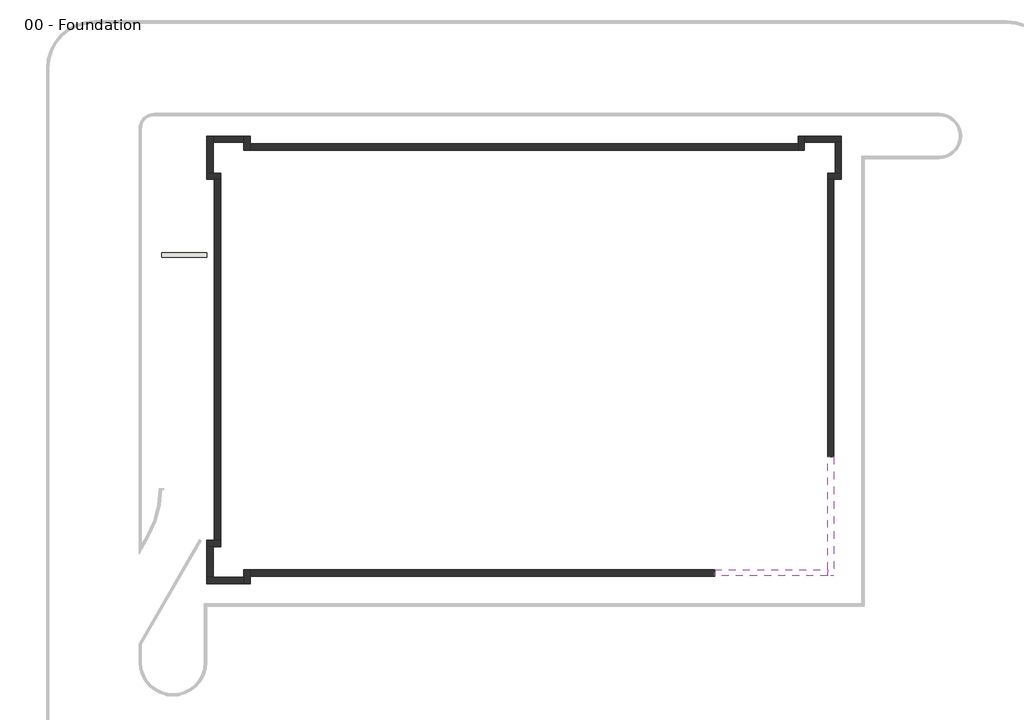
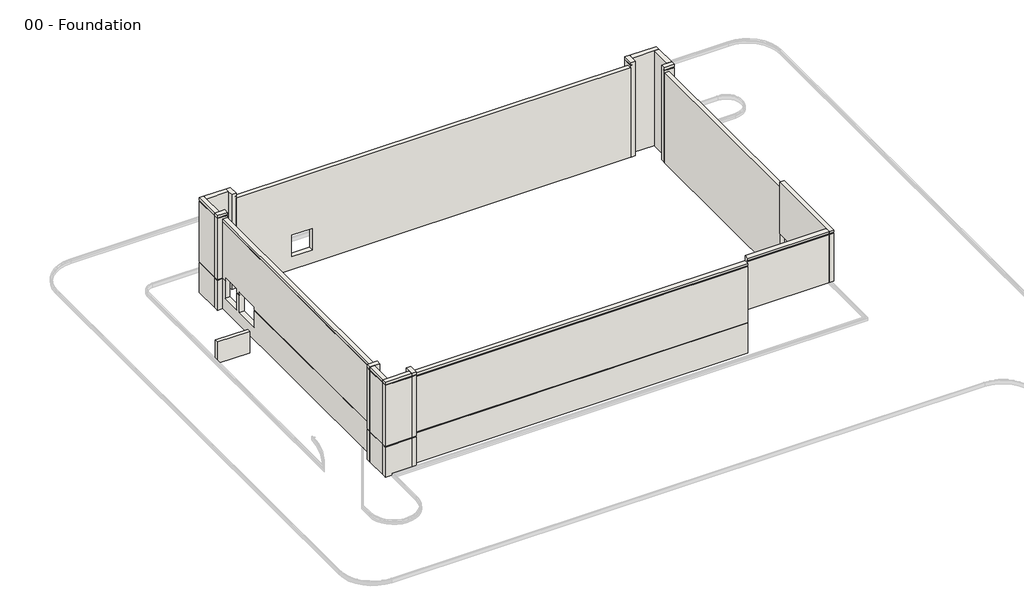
# One storey, part 1 of 2: 19 walls.
"""IFC4 building model written with IfcOpenShell, lengths in millimetres."""

from ifc_helpers import new_model, si_unit, frame, origin, place, context, project, spatial, polyline, outline, extrude, faceted_brep, element, save

model = new_model("IFC4")

# Units and contexts
model_context = context("Model", 3, world=origin())
ifc_project = project(units=[si_unit("LENGTHUNIT", "METRE", prefix="MILLI")], contexts=[model_context])

# Site, building, storey
site = spatial("IfcSite", under=ifc_project)
building = spatial("IfcBuilding", under=site)
storey = spatial("IfcBuildingStorey", under=building, Name="00 - Foundation", Elevation=-1250.0)

# Walls
placement = place(None, origin())
element("IfcWall", 1, ObjectType="Exterior - Render on Brick on Block @ Entry", at=placement, inside=storey, context=model_context, shape_type="Brep", body=[
    faceted_brep([(18351.5272279, -6481.9313057, 3000.0), (18351.5272279, -13977.9313057, 3000.0), (18351.5272279, -14406.9313057, 3000.0), (18351.5272279, -14406.9313057, 7700.0), (18351.5272279, -14331.9313057, 7700.0), (18351.5272279, -14331.9313057, 7775.0), (18351.5272279, -14406.9313057, 7775.0), (18351.5272279, -14406.9313057, 8000.0), (18351.5272279, -13977.9313057, 8000.0), (18351.5272279, -6481.9313057, 8000.0), (18351.5272279, -6481.9313057, 7500.0), (18780.5272279, -14406.9313057, 3000.0), (18780.5272279, -6481.9313057, 3000.0), (18780.5272279, -6481.9313057, 7200.0), (18780.5272279, -6481.9313057, 7275.0), (18780.5272279, -6481.9313057, 7500.0), (18780.5272279, -6481.9313057, 7700.0), (18780.5272279, -14406.9313057, 7700.0), (18780.5272279, -6481.9313057, 8000.0), (18780.5272279, -14406.9313057, 8000.0), (18780.5272279, -14406.9313057, 7775.0), (18780.5272279, -6481.9313057, 7775.0), (18705.5272279, -6481.9313057, 7775.0), (18705.5272279, -6481.9313057, 7700.0), (18705.5272279, -14331.9313057, 7775.0), (18705.5272279, -14331.9313057, 7700.0)], [[[0, 1, 2, 3, 4, 5, 6, 7, 8, 9, 10]], [[11, 12, 13, 14, 15, 16, 17]], [[18, 19, 20, 21]], [[2, 1, 0, 12, 11]], [[9, 8, 7, 19, 18]], [[0, 10, 9, 18, 21, 22, 23, 16, 15, 14, 13, 12]], [[24, 22, 21, 20, 6, 5]], [[23, 25, 4, 3, 17, 16]], [[22, 24, 25, 23]], [[2, 11, 17, 3]], [[19, 7, 6, 20]], [[25, 24, 5, 4]]]),
])
element("IfcWall", 2, ObjectType="Exterior - Render on Brick on Block @ Entry", at=placement, inside=storey, context=model_context, shape_type="Brep", body=[
    faceted_brep([(18351.5272279, -13977.9313057, 3000.0), (10855.5272279, -13977.9313057, 3000.0), (10855.5272279, -13977.9313057, 7500.0), (10855.5272279, -13977.9313057, 8000.0), (18351.5272279, -13977.9313057, 8000.0), (10855.5272279, -14406.9313057, 3000.0), (18351.5272279, -14406.9313057, 3000.0), (18351.5272279, -14406.9313057, 7700.0), (10855.5272279, -14406.9313057, 7700.0), (10855.5272279, -14406.9313057, 7500.0), (10855.5272279, -14406.9313057, 7275.0), (10855.5272279, -14406.9313057, 7200.0), (18351.5272279, -14406.9313057, 8000.0), (10855.5272279, -14406.9313057, 8000.0), (10855.5272279, -14406.9313057, 7775.0), (18351.5272279, -14406.9313057, 7775.0), (10855.5272279, -14331.9313057, 7700.0), (10855.5272279, -14331.9313057, 7775.0), (18351.5272279, -14331.9313057, 7700.0), (18351.5272279, -14331.9313057, 7775.0)], [[[0, 1, 2, 3, 4]], [[5, 6, 7, 8, 9, 10, 11]], [[12, 13, 14, 15]], [[1, 0, 6, 5]], [[3, 2, 1, 5, 11, 10, 9, 8, 16, 17, 14, 13]], [[4, 3, 13, 12]], [[16, 18, 19, 17]], [[0, 4, 12, 15, 19, 18, 7, 6]], [[17, 19, 15, 14]], [[18, 16, 8, 7]]]),
])
element("IfcWall", 3, ObjectType="Exterior - Render on Brick on Block", at=placement, inside=storey, context=model_context, shape_type="Brep", body=[
    faceted_brep([(10855.5272279, -13977.9313057, -1250.0), (-20031.4727721, -13977.9313057, -1250.0), (-20031.4727721, -13977.9313057, 7500.0), (10855.5272279, -13977.9313057, 7500.0), (10855.5272279, -13977.9313057, 3000.0), (10855.5272279, -14406.9313057, 7500.0), (-20031.4727721, -14406.9313057, 7500.0), (-20031.4727721, -14406.9313057, 7275.0), (10855.5272279, -14406.9313057, 7275.0), (-20031.4727721, -14406.9313057, -1250.0), (10855.5272279, -14406.9313057, -1250.0), (10855.5272279, -14406.9313057, 1675.0), (-20031.4727721, -14406.9313057, 1675.0), (-20031.4727721, -14406.9313057, 1750.0), (10855.5272279, -14406.9313057, 1750.0), (10855.5272279, -14406.9313057, 7200.0), (-20031.4727721, -14406.9313057, 7200.0), (10855.5272279, -14331.9313057, 7275.0), (10855.5272279, -14331.9313057, 7200.0), (10855.5272279, -14331.9313057, 1750.0), (10855.5272279, -14331.9313057, 1675.0), (10855.5272279, -14381.9313057, -1250.0), (-20031.4727721, -14381.9313057, -1250.0), (-20031.4727721, -14331.9313057, 1750.0), (-20031.4727721, -14331.9313057, 1675.0), (-20031.4727721, -14331.9313057, 7275.0), (-20031.4727721, -14331.9313057, 7200.0)], [[[0, 1, 2, 3, 4]], [[5, 6, 7, 8]], [[9, 10, 11, 12]], [[13, 14, 15, 16]], [[3, 2, 6, 5]], [[0, 4, 3, 5, 8, 17, 18, 15, 14, 19, 20, 11, 10, 21]], [[1, 0, 21, 22]], [[21, 10, 9, 22]], [[14, 13, 23, 19]], [[12, 11, 20, 24]], [[20, 19, 23, 24]], [[25, 17, 8, 7]], [[18, 26, 16, 15]], [[17, 25, 26, 18]], [[2, 1, 22, 9, 12, 24, 23, 13, 16, 26, 25, 7, 6]]]),
])
element("IfcWall", 4, ObjectType="Exterior - Render on Brick on Block", at=placement, inside=storey, context=model_context, shape_type="Brep", body=[
    faceted_brep([(-20460.4727721, -13977.9313057, -1250.0), (-20460.4727721, -14477.7313057, -1250.0), (-20460.4727721, -14906.7313057, -1250.0), (-20460.4727721, -14906.7313057, 1675.0), (-20460.4727721, -14831.7313057, 1675.0), (-20460.4727721, -14831.7313057, 1750.0), (-20460.4727721, -14906.7313057, 1750.0), (-20460.4727721, -14906.7313057, 7700.0), (-20460.4727721, -14831.7313057, 7700.0), (-20460.4727721, -14831.7313057, 7775.0), (-20460.4727721, -14906.7313057, 7775.0), (-20460.4727721, -14906.7313057, 8000.0), (-20460.4727721, -14477.7313057, 8000.0), (-20460.4727721, -13977.9313057, 8000.0), (-20031.4727721, -13977.9313057, 8000.0), (-20031.4727721, -14906.7313057, 8000.0), (-20031.4727721, -14906.7313057, 7775.0), (-20031.4727721, -13977.9313057, 7775.0), (-20031.4727721, -14906.7313057, -1250.0), (-20031.4727721, -14406.9313057, -1250.0), (-20031.4727721, -13977.9313057, -1250.0), (-20031.4727721, -13977.9313057, 7500.0), (-20031.4727721, -13977.9313057, 7700.0), (-20031.4727721, -14906.7313057, 7700.0), (-20031.4727721, -14906.7313057, 1750.0), (-20031.4727721, -14406.9313057, 1750.0), (-20031.4727721, -14331.9313057, 1750.0), (-20031.4727721, -14331.9313057, 1675.0), (-20031.4727721, -14406.9313057, 1675.0), (-20031.4727721, -14906.7313057, 1675.0), (-20056.4727721, -13977.9313057, -1250.0), (-20056.4727721, -14906.7313057, -1250.0), (-20106.4727721, -14331.9313057, 1675.0), (-20106.4727721, -14331.9313057, 1750.0), (-20106.4727721, -14831.7313057, 1750.0), (-20106.4727721, -14831.7313057, 1675.0), (-20106.4727721, -14831.7313057, 7775.0), (-20106.4727721, -13977.9313057, 7775.0), (-20106.4727721, -13977.9313057, 7700.0), (-20106.4727721, -14831.7313057, 7700.0)], [[[0, 1, 2, 3, 4, 5, 6, 7, 8, 9, 10, 11, 12, 13]], [[14, 15, 16, 17]], [[18, 19, 20, 21, 22, 23, 24, 25, 26, 27, 28, 29]], [[13, 12, 11, 15, 14]], [[2, 1, 0, 30, 31]], [[32, 33, 34, 35]], [[36, 37, 17, 16, 10, 9]], [[38, 39, 8, 7, 23, 22]], [[37, 36, 39, 38]], [[0, 13, 14, 17, 37, 38, 22, 21, 20, 30]], [[20, 19, 18, 31, 30]], [[34, 33, 26, 25, 24, 6, 5]], [[32, 35, 4, 3, 29, 28, 27]], [[33, 32, 27, 26]], [[15, 11, 10, 16]], [[2, 31, 18, 29, 3]], [[6, 24, 23, 7]], [[35, 34, 5, 4]], [[39, 36, 9, 8]]]),
])
element("IfcWall", 5, ObjectType="Exterior - Render on Brick on Block", at=placement, inside=storey, context=model_context, shape_type="Brep", body=[
    faceted_brep([(-20460.4727721, -14477.7313057, -1250.0), (-22490.4727721, -14477.7313057, -1250.0), (-22919.4727721, -14477.7313057, -1250.0), (-22919.4727721, -14477.7313057, 1675.0), (-22844.4727721, -14477.7313057, 1675.0), (-22844.4727721, -14477.7313057, 1750.0), (-22919.4727721, -14477.7313057, 1750.0), (-22919.4727721, -14477.7313057, 7700.0), (-22844.4727721, -14477.7313057, 7700.0), (-22844.4727721, -14477.7313057, 7775.0), (-22919.4727721, -14477.7313057, 7775.0), (-22919.4727721, -14477.7313057, 8000.0), (-22490.4727721, -14477.7313057, 8000.0), (-20460.4727721, -14477.7313057, 8000.0), (-20460.4727721, -14906.7313057, 8000.0), (-22919.4727721, -14906.7313057, 8000.0), (-22919.4727721, -14906.7313057, 7775.0), (-20460.4727721, -14906.7313057, 7775.0), (-22919.4727721, -14906.7313057, -1250.0), (-20460.4727721, -14906.7313057, -1250.0), (-20460.4727721, -14906.7313057, 1675.0), (-22919.4727721, -14906.7313057, 1675.0), (-22919.4727721, -14906.7313057, 1750.0), (-20460.4727721, -14906.7313057, 1750.0), (-20460.4727721, -14906.7313057, 7700.0), (-22919.4727721, -14906.7313057, 7700.0), (-20460.4727721, -14881.7313057, -1250.0), (-22919.4727721, -14881.7313057, -1250.0), (-22844.4727721, -14831.7313057, 1675.0), (-20460.4727721, -14831.7313057, 1675.0), (-20460.4727721, -14831.7313057, 1750.0), (-22844.4727721, -14831.7313057, 1750.0), (-22844.4727721, -14831.7313057, 7775.0), (-22844.4727721, -14831.7313057, 7700.0), (-20460.4727721, -14831.7313057, 7700.0), (-20460.4727721, -14831.7313057, 7775.0)], [[[0, 1, 2, 3, 4, 5, 6, 7, 8, 9, 10, 11, 12, 13]], [[14, 15, 16, 17]], [[18, 19, 20, 21]], [[22, 23, 24, 25]], [[13, 12, 11, 15, 14]], [[2, 1, 0, 26, 27]], [[28, 29, 30, 31]], [[32, 33, 34, 35]], [[0, 13, 14, 17, 35, 34, 24, 23, 30, 29, 20, 19, 26]], [[19, 18, 27, 26]], [[31, 30, 23, 22, 6, 5]], [[29, 28, 4, 3, 21, 20]], [[9, 32, 35, 17, 16, 10]], [[34, 33, 8, 7, 25, 24]], [[15, 11, 10, 16]], [[2, 27, 18, 21, 3]], [[6, 22, 25, 7]], [[28, 31, 5, 4]], [[33, 32, 9, 8]]]),
])
element("IfcWall", 6, ObjectType="Exterior - Render on Brick on Block", at=placement, inside=storey, context=model_context, shape_type="SweptSolid", body=[
    extrude(outline(polyline([(-1250.0, -22490.4727721), (8000.0, -22490.4727721), (8000.0, -22919.4727721), (7775.0, -22919.4727721), (7775.0, -22844.4727721), (7700.0, -22844.4727721), (7700.0, -22919.4727721), (1750.0, -22919.4727721), (1750.0, -22844.4727721), (1675.0, -22844.4727721), (1675.0, -22919.4727721), (-1250.0, -22919.4727721), (-1250.0, -22894.4727721), (-1250.0, -22490.4727721)])), frame((0.0, -14477.7313057, 0.0), z_axis=(0.0, 1.0, 0.0), x_axis=(0.0, 0.0, 1.0)), (0.0, 0.0, 1.0), 2030.0),
])
element("IfcWall", 7, ObjectType="Exterior - Render on Brick on Block", at=placement, inside=storey, context=model_context, shape_type="Brep", body=[
    faceted_brep([(-22919.4727721, -12447.7313057, -1250.0), (-22490.4727721, -12447.7313057, -1250.0), (-21990.4727721, -12447.7313057, -1250.0), (-21990.4727721, -12447.7313057, 8000.0), (-22490.4727721, -12447.7313057, 8000.0), (-22919.4727721, -12447.7313057, 8000.0), (-22919.4727721, -12447.7313057, 7775.0), (-22844.4727721, -12447.7313057, 7775.0), (-22844.4727721, -12447.7313057, 7700.0), (-22919.4727721, -12447.7313057, 7700.0), (-22919.4727721, -12447.7313057, 1750.0), (-22844.4727721, -12447.7313057, 1750.0), (-22844.4727721, -12447.7313057, 1675.0), (-22919.4727721, -12447.7313057, 1675.0), (-22919.4727721, -12018.7313057, 8000.0), (-21990.4727721, -12018.7313057, 8000.0), (-21990.4727721, -12018.7313057, 7775.0), (-22919.4727721, -12018.7313057, 7775.0), (-21990.4727721, -12018.7313057, -1250.0), (-22419.4727721, -12018.7313057, -1250.0), (-22919.4727721, -12018.7313057, -1250.0), (-22919.4727721, -12018.7313057, 1675.0), (-22419.4727721, -12018.7313057, 1675.0), (-22344.4727721, -12018.7313057, 1675.0), (-22344.4727721, -12018.7313057, 1750.0), (-22419.4727721, -12018.7313057, 1750.0), (-22919.4727721, -12018.7313057, 1750.0), (-22919.4727721, -12018.7313057, 7700.0), (-21990.4727721, -12018.7313057, 7700.0), (-21990.4727721, -12018.7313057, 7500.0), (-22919.4727721, -12043.7313057, -1250.0), (-21990.4727721, -12043.7313057, -1250.0), (-22844.4727721, -12093.7313057, 1675.0), (-22844.4727721, -12093.7313057, 1750.0), (-22344.4727721, -12093.7313057, 1750.0), (-22344.4727721, -12093.7313057, 1675.0), (-22844.4727721, -12093.7313057, 7775.0), (-21990.4727721, -12093.7313057, 7775.0), (-21990.4727721, -12093.7313057, 7700.0), (-22844.4727721, -12093.7313057, 7700.0)], [[[0, 1, 2, 3, 4, 5, 6, 7, 8, 9, 10, 11, 12, 13]], [[14, 15, 16, 17]], [[18, 19, 20, 21, 22, 23, 24, 25, 26, 27, 28, 29]], [[5, 4, 3, 15, 14]], [[2, 1, 0, 30, 31]], [[32, 33, 34, 35]], [[36, 37, 38, 39]], [[5, 14, 17, 6]], [[30, 0, 13, 21, 20]], [[26, 10, 9, 27]], [[20, 19, 18, 31, 30]], [[34, 33, 11, 10, 26, 25, 24]], [[32, 35, 23, 22, 21, 13, 12]], [[33, 32, 12, 11]], [[37, 36, 7, 6, 17, 16]], [[39, 38, 28, 27, 9, 8]], [[36, 39, 8, 7]], [[3, 2, 31, 18, 29, 28, 38, 37, 16, 15]], [[35, 34, 24, 23]]]),
])
element("IfcWall", 8, ObjectType="Exterior - Render on Brick on Block", at=placement, inside=storey, context=model_context, shape_type="Brep", body=[
    faceted_brep([(-21990.4727721, -12018.7313057, -1250.0), (-21990.4727721, 11955.0686943, -1250.0), (-21990.4727721, 11955.0686943, 7500.0), (-21990.4727721, -12018.7313057, 7500.0), (-21990.4727721, 9255.0686943, 2000.0), (-21990.4727721, 9255.0686943, 0.0), (-21990.4727721, 6855.0686943, 0.0), (-21990.4727721, 6855.0686943, 2000.0), (-21990.4727721, 9655.0686943, 2100.0), (-21990.4727721, 11555.0686943, 2100.0), (-21990.4727721, 11555.0686943, 0.0), (-21990.4727721, 9655.0686943, 0.0), (-22419.4727721, -12018.7313057, 7500.0), (-22419.4727721, 11955.0686943, 7500.0), (-22419.4727721, 11955.0686943, 7275.0), (-22419.4727721, -12018.7313057, 7275.0), (-22419.4727721, 11955.0686943, -1250.0), (-22419.4727721, -12018.7313057, -1250.0), (-22419.4727721, -12018.7313057, 1675.0), (-22419.4727721, 6855.0686943, 1675.0), (-22419.4727721, 6855.0686943, 0.0), (-22419.4727721, 9255.0686943, 0.0), (-22419.4727721, 9255.0686943, 1675.0), (-22419.4727721, 9655.0686943, 1675.0), (-22419.4727721, 9655.0686943, 0.0), (-22419.4727721, 11555.0686943, 0.0), (-22419.4727721, 11555.0686943, 1675.0), (-22419.4727721, 11955.0686943, 1675.0), (-22419.4727721, 11955.0686943, 1750.0), (-22419.4727721, 11555.0686943, 1750.0), (-22419.4727721, 11555.0686943, 2100.0), (-22419.4727721, 9655.0686943, 2100.0), (-22419.4727721, 9655.0686943, 1750.0), (-22419.4727721, 9255.0686943, 1750.0), (-22419.4727721, 9255.0686943, 2000.0), (-22419.4727721, 6855.0686943, 2000.0), (-22419.4727721, 6855.0686943, 1750.0), (-22419.4727721, -12018.7313057, 1750.0), (-22419.4727721, -12018.7313057, 7200.0), (-22419.4727721, 11955.0686943, 7200.0), (-22394.4727721, -12018.7313057, -1250.0), (-22394.4727721, 11955.0686943, -1250.0), (-22344.4727721, 11955.0686943, 1750.0), (-22344.4727721, 11555.0686943, 1750.0), (-22344.4727721, 11555.0686943, 1675.0), (-22344.4727721, 11955.0686943, 1675.0), (-22344.4727721, 11955.0686943, 7275.0), (-22344.4727721, -12018.7313057, 7275.0), (-22344.4727721, -12018.7313057, 7200.0), (-22344.4727721, 11955.0686943, 7200.0), (-22344.4727721, -12018.7313057, 1750.0), (-22344.4727721, -12018.7313057, 1675.0), (-22344.4727721, 6855.0686943, 1750.0), (-22344.4727721, 6855.0686943, 1675.0), (-22344.4727721, 9255.0686943, 1750.0), (-22344.4727721, 9255.0686943, 1675.0), (-22344.4727721, 9655.0686943, 1750.0), (-22344.4727721, 9655.0686943, 1675.0)], [[[0, 1, 2, 3], [4, 5, 6, 7], [8, 9, 10, 11]], [[12, 13, 14, 15]], [[16, 17, 18, 19, 20, 21, 22, 23, 24, 25, 26, 27]], [[28, 29, 30, 31, 32, 33, 34, 35, 36, 37, 38, 39]], [[3, 2, 13, 12]], [[1, 0, 40, 41]], [[29, 28, 42, 43]], [[27, 26, 44, 45]], [[45, 44, 43, 42]], [[46, 47, 15, 14]], [[48, 49, 39, 38]], [[47, 46, 49, 48]], [[0, 3, 12, 15, 47, 48, 38, 37, 50, 51, 18, 17, 40]], [[17, 16, 41, 40]], [[37, 36, 52, 50]], [[19, 18, 51, 53]], [[2, 1, 41, 16, 27, 45, 42, 28, 39, 49, 46, 14, 13]], [[5, 4, 34, 33, 54, 55, 22, 21]], [[35, 34, 4, 7]], [[7, 6, 20, 19, 53, 52, 36, 35]], [[21, 20, 6, 5]], [[54, 56, 57, 55]], [[56, 54, 33, 32]], [[55, 57, 23, 22]], [[8, 31, 30, 9]], [[31, 8, 11, 24, 23, 57, 56, 32]], [[24, 11, 10, 25]], [[9, 30, 29, 43, 44, 26, 25, 10]], [[50, 52, 53, 51]]]),
])
element("IfcWall", 9, ObjectType="Exterior - Render on Brick on Block", at=placement, inside=storey, context=model_context, shape_type="Brep", body=[
    faceted_brep([(-21990.4727721, 12384.0686943, -1250.0), (-22490.4727721, 12384.0686943, -1250.0), (-22919.4727721, 12384.0686943, -1250.0), (-22919.4727721, 12384.0686943, 1675.0), (-22844.4727721, 12384.0686943, 1675.0), (-22844.4727721, 12384.0686943, 1750.0), (-22919.4727721, 12384.0686943, 1750.0), (-22919.4727721, 12384.0686943, 7700.0), (-22844.4727721, 12384.0686943, 7700.0), (-22844.4727721, 12384.0686943, 7775.0), (-22919.4727721, 12384.0686943, 7775.0), (-22919.4727721, 12384.0686943, 8000.0), (-22490.4727721, 12384.0686943, 8000.0), (-21990.4727721, 12384.0686943, 8000.0), (-21990.4727721, 11955.0686943, 8000.0), (-22919.4727721, 11955.0686943, 8000.0), (-22919.4727721, 11955.0686943, 7775.0), (-21990.4727721, 11955.0686943, 7775.0), (-22919.4727721, 11955.0686943, -1250.0), (-22419.4727721, 11955.0686943, -1250.0), (-21990.4727721, 11955.0686943, -1250.0), (-21990.4727721, 11955.0686943, 7500.0), (-21990.4727721, 11955.0686943, 7700.0), (-22919.4727721, 11955.0686943, 7700.0), (-22919.4727721, 11955.0686943, 1750.0), (-22419.4727721, 11955.0686943, 1750.0), (-22344.4727721, 11955.0686943, 1750.0), (-22344.4727721, 11955.0686943, 1675.0), (-22419.4727721, 11955.0686943, 1675.0), (-22919.4727721, 11955.0686943, 1675.0), (-21990.4727721, 11980.0686943, -1250.0), (-22919.4727721, 11980.0686943, -1250.0), (-22344.4727721, 12030.0686943, 1675.0), (-22344.4727721, 12030.0686943, 1750.0), (-22844.4727721, 12030.0686943, 1750.0), (-22844.4727721, 12030.0686943, 1675.0), (-22844.4727721, 12030.0686943, 7775.0), (-21990.4727721, 12030.0686943, 7775.0), (-21990.4727721, 12030.0686943, 7700.0), (-22844.4727721, 12030.0686943, 7700.0)], [[[0, 1, 2, 3, 4, 5, 6, 7, 8, 9, 10, 11, 12, 13]], [[14, 15, 16, 17]], [[18, 19, 20, 21, 22, 23, 24, 25, 26, 27, 28, 29]], [[13, 12, 11, 15, 14]], [[2, 1, 0, 30, 31]], [[32, 33, 34, 35]], [[36, 37, 17, 16, 10, 9]], [[38, 39, 8, 7, 23, 22]], [[37, 36, 39, 38]], [[0, 13, 14, 17, 37, 38, 22, 21, 20, 30]], [[20, 19, 18, 31, 30]], [[34, 33, 26, 25, 24, 6, 5]], [[32, 35, 4, 3, 29, 28, 27]], [[33, 32, 27, 26]], [[15, 11, 10, 16]], [[2, 31, 18, 29, 3]], [[6, 24, 23, 7]], [[35, 34, 5, 4]], [[39, 36, 9, 8]]]),
])
element("IfcWall", 10, ObjectType="Exterior - Render on Brick on Block", at=placement, inside=storey, context=model_context, shape_type="Brep", body=[
    faceted_brep([(-22490.4727721, 12384.0686943, -1250.0), (-22490.4727721, 14414.0686943, -1250.0), (-22490.4727721, 14843.0686943, -1250.0), (-22490.4727721, 14843.0686943, 1675.0), (-22490.4727721, 14768.0686943, 1675.0), (-22490.4727721, 14768.0686943, 1750.0), (-22490.4727721, 14843.0686943, 1750.0), (-22490.4727721, 14843.0686943, 7700.0), (-22490.4727721, 14768.0686943, 7700.0), (-22490.4727721, 14768.0686943, 7775.0), (-22490.4727721, 14843.0686943, 7775.0), (-22490.4727721, 14843.0686943, 8000.0), (-22490.4727721, 14414.0686943, 8000.0), (-22490.4727721, 12384.0686943, 8000.0), (-22919.4727721, 12384.0686943, 8000.0), (-22919.4727721, 14843.0686943, 8000.0), (-22919.4727721, 14843.0686943, 7775.0), (-22919.4727721, 12384.0686943, 7775.0), (-22919.4727721, 14843.0686943, -1250.0), (-22919.4727721, 12384.0686943, -1250.0), (-22919.4727721, 12384.0686943, 1675.0), (-22919.4727721, 14843.0686943, 1675.0), (-22919.4727721, 14843.0686943, 1750.0), (-22919.4727721, 12384.0686943, 1750.0), (-22919.4727721, 12384.0686943, 7700.0), (-22919.4727721, 14843.0686943, 7700.0), (-22894.4727721, 12384.0686943, -1250.0), (-22894.4727721, 14843.0686943, -1250.0), (-22844.4727721, 14768.0686943, 1675.0), (-22844.4727721, 12384.0686943, 1675.0), (-22844.4727721, 12384.0686943, 1750.0), (-22844.4727721, 14768.0686943, 1750.0), (-22844.4727721, 14768.0686943, 7775.0), (-22844.4727721, 14768.0686943, 7700.0), (-22844.4727721, 12384.0686943, 7700.0), (-22844.4727721, 12384.0686943, 7775.0)], [[[0, 1, 2, 3, 4, 5, 6, 7, 8, 9, 10, 11, 12, 13]], [[14, 15, 16, 17]], [[18, 19, 20, 21]], [[22, 23, 24, 25]], [[13, 12, 11, 15, 14]], [[2, 1, 0, 26, 27]], [[28, 29, 30, 31]], [[32, 33, 34, 35]], [[0, 13, 14, 17, 35, 34, 24, 23, 30, 29, 20, 19, 26]], [[19, 18, 27, 26]], [[31, 30, 23, 22, 6, 5]], [[29, 28, 4, 3, 21, 20]], [[9, 32, 35, 17, 16, 10]], [[34, 33, 8, 7, 25, 24]], [[15, 11, 10, 16]], [[2, 27, 18, 21, 3]], [[6, 22, 25, 7]], [[28, 31, 5, 4]], [[33, 32, 9, 8]]]),
])
element("IfcWall", 11, ObjectType="Exterior - Render on Brick on Block", at=placement, inside=storey, context=model_context, shape_type="SweptSolid", body=[
    extrude(outline(polyline([(14414.0686943, -1250.0), (14414.0686943, 8000.0), (14843.0686943, 8000.0), (14843.0686943, 7775.0), (14768.0686943, 7775.0), (14768.0686943, 7700.0), (14843.0686943, 7700.0), (14843.0686943, 1750.0), (14768.0686943, 1750.0), (14768.0686943, 1675.0), (14843.0686943, 1675.0), (14843.0686943, -1250.0), (14818.0686943, -1250.0), (14414.0686943, -1250.0)])), frame((-22490.4727721, 0.0, 0.0), z_axis=(1.0, 0.0, 0.0), x_axis=(0.0, 1.0, 0.0)), (0.0, 0.0, 1.0), 2030.0),
])
element("IfcWall", 12, ObjectType="Exterior - Render on Brick on Block", at=placement, inside=storey, context=model_context, shape_type="Brep", body=[
    faceted_brep([(-20460.4727721, 14843.0686943, -1250.0), (-20460.4727721, 14414.0686943, -1250.0), (-20460.4727721, 13914.0686943, -1250.0), (-20460.4727721, 13914.0686943, 8000.0), (-20460.4727721, 14414.0686943, 8000.0), (-20460.4727721, 14843.0686943, 8000.0), (-20460.4727721, 14843.0686943, 7775.0), (-20460.4727721, 14768.0686943, 7775.0), (-20460.4727721, 14768.0686943, 7700.0), (-20460.4727721, 14843.0686943, 7700.0), (-20460.4727721, 14843.0686943, 1750.0), (-20460.4727721, 14768.0686943, 1750.0), (-20460.4727721, 14768.0686943, 1675.0), (-20460.4727721, 14843.0686943, 1675.0), (-20031.4727721, 14843.0686943, 8000.0), (-20031.4727721, 13914.0686943, 8000.0), (-20031.4727721, 13914.0686943, 7775.0), (-20031.4727721, 14843.0686943, 7775.0), (-20031.4727721, 13914.0686943, -1250.0), (-20031.4727721, 14343.0686943, -1250.0), (-20031.4727721, 14843.0686943, -1250.0), (-20031.4727721, 14843.0686943, 1675.0), (-20031.4727721, 14343.0686943, 1675.0), (-20031.4727721, 14268.0686943, 1675.0), (-20031.4727721, 14268.0686943, 1750.0), (-20031.4727721, 14343.0686943, 1750.0), (-20031.4727721, 14843.0686943, 1750.0), (-20031.4727721, 14843.0686943, 7700.0), (-20031.4727721, 13914.0686943, 7700.0), (-20031.4727721, 13914.0686943, 7500.0), (-20056.4727721, 14843.0686943, -1250.0), (-20056.4727721, 13914.0686943, -1250.0), (-20106.4727721, 14768.0686943, 1675.0), (-20106.4727721, 14768.0686943, 1750.0), (-20106.4727721, 14268.0686943, 1750.0), (-20106.4727721, 14268.0686943, 1675.0), (-20106.4727721, 14768.0686943, 7775.0), (-20106.4727721, 13914.0686943, 7775.0), (-20106.4727721, 13914.0686943, 7700.0), (-20106.4727721, 14768.0686943, 7700.0)], [[[0, 1, 2, 3, 4, 5, 6, 7, 8, 9, 10, 11, 12, 13]], [[14, 15, 16, 17]], [[18, 19, 20, 21, 22, 23, 24, 25, 26, 27, 28, 29]], [[5, 4, 3, 15, 14]], [[2, 1, 0, 30, 31]], [[32, 33, 34, 35]], [[36, 37, 38, 39]], [[5, 14, 17, 6]], [[30, 0, 13, 21, 20]], [[26, 10, 9, 27]], [[20, 19, 18, 31, 30]], [[34, 33, 11, 10, 26, 25, 24]], [[32, 35, 23, 22, 21, 13, 12]], [[33, 32, 12, 11]], [[37, 36, 7, 6, 17, 16]], [[39, 38, 28, 27, 9, 8]], [[36, 39, 8, 7]], [[3, 2, 31, 18, 29, 28, 38, 37, 16, 15]], [[35, 34, 24, 23]]]),
])
element("IfcWall", 13, ObjectType="Exterior - Render on Brick on Block", at=placement, inside=storey, context=model_context, shape_type="Brep", body=[
    faceted_brep([(-20031.4727721, 13914.0686943, -1250.0), (16392.5272279, 13914.0686943, -1250.0), (16392.5272279, 13914.0686943, 7500.0), (-20031.4727721, 13914.0686943, 7500.0), (-14912.4227721, 13914.0686943, 0.0), (-14912.4227721, 13914.0686943, 2100.0), (-13012.4227721, 13914.0686943, 2100.0), (-13012.4227721, 13914.0686943, 0.0), (-20031.4727721, 14343.0686943, 7500.0), (16392.5272279, 14343.0686943, 7500.0), (16392.5272279, 14343.0686943, 7275.0), (-20031.4727721, 14343.0686943, 7275.0), (16392.5272279, 14343.0686943, -1250.0), (-20031.4727721, 14343.0686943, -1250.0), (-20031.4727721, 14343.0686943, 1675.0), (-14912.4227721, 14343.0686943, 1675.0), (-14912.4227721, 14343.0686943, 0.0), (-13012.4227721, 14343.0686943, 0.0), (-13012.4227721, 14343.0686943, 1675.0), (16392.5272279, 14343.0686943, 1675.0), (16392.5272279, 14343.0686943, 1750.0), (-13012.4227721, 14343.0686943, 1750.0), (-13012.4227721, 14343.0686943, 2100.0), (-14912.4227721, 14343.0686943, 2100.0), (-14912.4227721, 14343.0686943, 1750.0), (-20031.4727721, 14343.0686943, 1750.0), (-20031.4727721, 14343.0686943, 7200.0), (16392.5272279, 14343.0686943, 7200.0), (-20031.4727721, 14318.0686943, -1250.0), (16392.5272279, 14318.0686943, -1250.0), (16392.5272279, 14268.0686943, 1750.0), (-13012.4227721, 14268.0686943, 1750.0), (-13012.4227721, 14268.0686943, 1675.0), (16392.5272279, 14268.0686943, 1675.0), (16392.5272279, 14268.0686943, 7275.0), (-20031.4727721, 14268.0686943, 7275.0), (-20031.4727721, 14268.0686943, 7200.0), (16392.5272279, 14268.0686943, 7200.0), (-20031.4727721, 14268.0686943, 1750.0), (-20031.4727721, 14268.0686943, 1675.0), (-14912.4227721, 14268.0686943, 1750.0), (-14912.4227721, 14268.0686943, 1675.0)], [[[0, 1, 2, 3], [4, 5, 6, 7]], [[8, 9, 10, 11]], [[12, 13, 14, 15, 16, 17, 18, 19]], [[20, 21, 22, 23, 24, 25, 26, 27]], [[3, 2, 9, 8]], [[1, 0, 28, 29]], [[21, 20, 30, 31]], [[19, 18, 32, 33]], [[33, 32, 31, 30]], [[34, 35, 11, 10]], [[36, 37, 27, 26]], [[35, 34, 37, 36]], [[0, 3, 8, 11, 35, 36, 26, 25, 38, 39, 14, 13, 28]], [[13, 12, 29, 28]], [[25, 24, 40, 38]], [[15, 14, 39, 41]], [[2, 1, 29, 12, 19, 33, 30, 20, 27, 37, 34, 10, 9]], [[5, 4, 16, 15, 41, 40, 24, 23]], [[6, 5, 23, 22]], [[7, 6, 22, 21, 31, 32, 18, 17]], [[4, 7, 17, 16]], [[38, 40, 41, 39]]]),
])
element("IfcWall", 14, ObjectType="Exterior - Render on Brick on Block", at=placement, inside=storey, context=model_context, shape_type="Brep", body=[
    faceted_brep([(16821.5272279, 13914.0686943, -1250.0), (16821.5272279, 14414.0686943, -1250.0), (16821.5272279, 14843.0686943, -1250.0), (16821.5272279, 14843.0686943, 1675.0), (16821.5272279, 14768.0686943, 1675.0), (16821.5272279, 14768.0686943, 1750.0), (16821.5272279, 14843.0686943, 1750.0), (16821.5272279, 14843.0686943, 7700.0), (16821.5272279, 14768.0686943, 7700.0), (16821.5272279, 14768.0686943, 7775.0), (16821.5272279, 14843.0686943, 7775.0), (16821.5272279, 14843.0686943, 8000.0), (16821.5272279, 14414.0686943, 8000.0), (16821.5272279, 13914.0686943, 8000.0), (16392.5272279, 13914.0686943, 8000.0), (16392.5272279, 14843.0686943, 8000.0), (16392.5272279, 14843.0686943, 7775.0), (16392.5272279, 13914.0686943, 7775.0), (16392.5272279, 14843.0686943, -1250.0), (16392.5272279, 14343.0686943, -1250.0), (16392.5272279, 13914.0686943, -1250.0), (16392.5272279, 13914.0686943, 7500.0), (16392.5272279, 13914.0686943, 7700.0), (16392.5272279, 14843.0686943, 7700.0), (16392.5272279, 14843.0686943, 1750.0), (16392.5272279, 14343.0686943, 1750.0), (16392.5272279, 14268.0686943, 1750.0), (16392.5272279, 14268.0686943, 1675.0), (16392.5272279, 14343.0686943, 1675.0), (16392.5272279, 14843.0686943, 1675.0), (16417.5272279, 13914.0686943, -1250.0), (16417.5272279, 14843.0686943, -1250.0), (16467.5272279, 14268.0686943, 1675.0), (16467.5272279, 14268.0686943, 1750.0), (16467.5272279, 14768.0686943, 1750.0), (16467.5272279, 14768.0686943, 1675.0), (16467.5272279, 14768.0686943, 7775.0), (16467.5272279, 13914.0686943, 7775.0), (16467.5272279, 13914.0686943, 7700.0), (16467.5272279, 14768.0686943, 7700.0)], [[[0, 1, 2, 3, 4, 5, 6, 7, 8, 9, 10, 11, 12, 13]], [[14, 15, 16, 17]], [[18, 19, 20, 21, 22, 23, 24, 25, 26, 27, 28, 29]], [[13, 12, 11, 15, 14]], [[2, 1, 0, 30, 31]], [[32, 33, 34, 35]], [[36, 37, 17, 16, 10, 9]], [[38, 39, 8, 7, 23, 22]], [[37, 36, 39, 38]], [[0, 13, 14, 17, 37, 38, 22, 21, 20, 30]], [[20, 19, 18, 31, 30]], [[34, 33, 26, 25, 24, 6, 5]], [[32, 35, 4, 3, 29, 28, 27]], [[33, 32, 27, 26]], [[15, 11, 10, 16]], [[2, 31, 18, 29, 3]], [[6, 24, 23, 7]], [[35, 34, 5, 4]], [[39, 36, 9, 8]]]),
])
element("IfcWall", 15, ObjectType="Exterior - Render on Brick on Block", at=placement, inside=storey, context=model_context, shape_type="Brep", body=[
    faceted_brep([(16821.5272279, 14414.0686943, -1250.0), (18851.5272279, 14414.0686943, -1250.0), (19280.5272279, 14414.0686943, -1250.0), (19280.5272279, 14414.0686943, 1675.0), (19205.5272279, 14414.0686943, 1675.0), (19205.5272279, 14414.0686943, 1750.0), (19280.5272279, 14414.0686943, 1750.0), (19280.5272279, 14414.0686943, 7700.0), (19205.5272279, 14414.0686943, 7700.0), (19205.5272279, 14414.0686943, 7775.0), (19280.5272279, 14414.0686943, 7775.0), (19280.5272279, 14414.0686943, 8000.0), (18851.5272279, 14414.0686943, 8000.0), (16821.5272279, 14414.0686943, 8000.0), (16821.5272279, 14843.0686943, 8000.0), (19280.5272279, 14843.0686943, 8000.0), (19280.5272279, 14843.0686943, 7775.0), (16821.5272279, 14843.0686943, 7775.0), (19280.5272279, 14843.0686943, -1250.0), (16821.5272279, 14843.0686943, -1250.0), (16821.5272279, 14843.0686943, 1675.0), (19280.5272279, 14843.0686943, 1675.0), (19280.5272279, 14843.0686943, 1750.0), (16821.5272279, 14843.0686943, 1750.0), (16821.5272279, 14843.0686943, 7700.0), (19280.5272279, 14843.0686943, 7700.0), (16821.5272279, 14818.0686943, -1250.0), (19280.5272279, 14818.0686943, -1250.0), (19205.5272279, 14768.0686943, 1675.0), (16821.5272279, 14768.0686943, 1675.0), (16821.5272279, 14768.0686943, 1750.0), (19205.5272279, 14768.0686943, 1750.0), (19205.5272279, 14768.0686943, 7775.0), (19205.5272279, 14768.0686943, 7700.0), (16821.5272279, 14768.0686943, 7700.0), (16821.5272279, 14768.0686943, 7775.0)], [[[0, 1, 2, 3, 4, 5, 6, 7, 8, 9, 10, 11, 12, 13]], [[14, 15, 16, 17]], [[18, 19, 20, 21]], [[22, 23, 24, 25]], [[13, 12, 11, 15, 14]], [[2, 1, 0, 26, 27]], [[28, 29, 30, 31]], [[32, 33, 34, 35]], [[0, 13, 14, 17, 35, 34, 24, 23, 30, 29, 20, 19, 26]], [[19, 18, 27, 26]], [[31, 30, 23, 22, 6, 5]], [[29, 28, 4, 3, 21, 20]], [[9, 32, 35, 17, 16, 10]], [[34, 33, 8, 7, 25, 24]], [[15, 11, 10, 16]], [[2, 27, 18, 21, 3]], [[6, 22, 25, 7]], [[28, 31, 5, 4]], [[33, 32, 9, 8]]]),
])
element("IfcWall", 16, ObjectType="Exterior - Render on Brick on Block", at=placement, inside=storey, context=model_context, shape_type="SweptSolid", body=[
    extrude(outline(polyline([(8000.0, 18851.5272279), (-1250.0, 18851.5272279), (-1250.0, 19255.5272279), (-1250.0, 19280.5272279), (1675.0, 19280.5272279), (1675.0, 19205.5272279), (1750.0, 19205.5272279), (1750.0, 19280.5272279), (7700.0, 19280.5272279), (7700.0, 19205.5272279), (7775.0, 19205.5272279), (7775.0, 19280.5272279), (8000.0, 19280.5272279), (8000.0, 18851.5272279)])), frame((0.0, 12384.0686943, 0.0), z_axis=(0.0, 1.0, 0.0), x_axis=(0.0, 0.0, 1.0)), (0.0, 0.0, 1.0), 2030.0),
])
element("IfcWall", 17, ObjectType="Exterior - Render on Brick on Block", at=placement, inside=storey, context=model_context, shape_type="Brep", body=[
    faceted_brep([(19280.5272279, 12384.0686943, -1250.0), (18851.5272279, 12384.0686943, -1250.0), (18351.5272279, 12384.0686943, -1250.0), (18351.5272279, 12384.0686943, 8000.0), (18851.5272279, 12384.0686943, 8000.0), (19280.5272279, 12384.0686943, 8000.0), (19280.5272279, 12384.0686943, 7775.0), (19205.5272279, 12384.0686943, 7775.0), (19205.5272279, 12384.0686943, 7700.0), (19280.5272279, 12384.0686943, 7700.0), (19280.5272279, 12384.0686943, 1750.0), (19205.5272279, 12384.0686943, 1750.0), (19205.5272279, 12384.0686943, 1675.0), (19280.5272279, 12384.0686943, 1675.0), (19280.5272279, 11955.0686943, 8000.0), (18351.5272279, 11955.0686943, 8000.0), (18351.5272279, 11955.0686943, 7775.0), (19280.5272279, 11955.0686943, 7775.0), (18351.5272279, 11955.0686943, -1250.0), (18780.5272279, 11955.0686943, -1250.0), (19280.5272279, 11955.0686943, -1250.0), (19280.5272279, 11955.0686943, 1675.0), (18780.5272279, 11955.0686943, 1675.0), (18705.5272279, 11955.0686943, 1675.0), (18705.5272279, 11955.0686943, 1750.0), (18780.5272279, 11955.0686943, 1750.0), (19280.5272279, 11955.0686943, 1750.0), (19280.5272279, 11955.0686943, 7700.0), (18351.5272279, 11955.0686943, 7700.0), (18351.5272279, 11955.0686943, 7500.0), (19280.5272279, 11980.0686943, -1250.0), (18351.5272279, 11980.0686943, -1250.0), (19205.5272279, 12030.0686943, 1675.0), (19205.5272279, 12030.0686943, 1750.0), (18705.5272279, 12030.0686943, 1750.0), (18705.5272279, 12030.0686943, 1675.0), (19205.5272279, 12030.0686943, 7775.0), (18351.5272279, 12030.0686943, 7775.0), (18351.5272279, 12030.0686943, 7700.0), (19205.5272279, 12030.0686943, 7700.0)], [[[0, 1, 2, 3, 4, 5, 6, 7, 8, 9, 10, 11, 12, 13]], [[14, 15, 16, 17]], [[18, 19, 20, 21, 22, 23, 24, 25, 26, 27, 28, 29]], [[5, 4, 3, 15, 14]], [[2, 1, 0, 30, 31]], [[32, 33, 34, 35]], [[36, 37, 38, 39]], [[5, 14, 17, 6]], [[30, 0, 13, 21, 20]], [[26, 10, 9, 27]], [[20, 19, 18, 31, 30]], [[34, 33, 11, 10, 26, 25, 24]], [[32, 35, 23, 22, 21, 13, 12]], [[33, 32, 12, 11]], [[37, 36, 7, 6, 17, 16]], [[39, 38, 28, 27, 9, 8]], [[36, 39, 8, 7]], [[3, 2, 31, 18, 29, 28, 38, 37, 16, 15]], [[35, 34, 24, 23]]]),
])
element("IfcWall", 18, ObjectType="Exterior - Render on Brick on Block", at=placement, inside=storey, context=model_context, shape_type="Brep", body=[
    faceted_brep([(18351.5272279, 11955.0686943, -1250.0), (18351.5272279, -6481.9313057, -1250.0), (18351.5272279, -6481.9313057, 3000.0), (18351.5272279, -6481.9313057, 7500.0), (18351.5272279, 11955.0686943, 7500.0), (18780.5272279, 11955.0686943, 7500.0), (18780.5272279, -6481.9313057, 7500.0), (18780.5272279, -6481.9313057, 7275.0), (18780.5272279, 11955.0686943, 7275.0), (18780.5272279, -6481.9313057, -1250.0), (18780.5272279, 11955.0686943, -1250.0), (18780.5272279, 11955.0686943, 1675.0), (18780.5272279, -6481.9313057, 1675.0), (18780.5272279, -6481.9313057, 1750.0), (18780.5272279, 11955.0686943, 1750.0), (18780.5272279, 11955.0686943, 7200.0), (18780.5272279, -6481.9313057, 7200.0), (18755.5272279, -6481.9313057, -1250.0), (18705.5272279, -6481.9313057, 1675.0), (18705.5272279, -6481.9313057, 1750.0), (18705.5272279, -6481.9313057, 7200.0), (18705.5272279, -6481.9313057, 7275.0), (18755.5272279, 11955.0686943, -1250.0), (18705.5272279, 11955.0686943, 1675.0), (18705.5272279, 11955.0686943, 1750.0), (18705.5272279, 11955.0686943, 7275.0), (18705.5272279, 11955.0686943, 7200.0)], [[[0, 1, 2, 3, 4]], [[5, 6, 7, 8]], [[9, 10, 11, 12]], [[13, 14, 15, 16]], [[3, 2, 1, 17, 9, 12, 18, 19, 13, 16, 20, 21, 7, 6]], [[4, 3, 6, 5]], [[1, 0, 22, 17]], [[19, 18, 23, 24]], [[21, 25, 8, 7]], [[26, 20, 16, 15]], [[25, 21, 20, 26]], [[0, 4, 5, 8, 25, 26, 15, 14, 24, 23, 11, 10, 22]], [[10, 9, 17, 22]], [[19, 24, 14, 13]], [[23, 18, 12, 11]]]),
])
element("IfcWall", 19, ObjectType="Foundation - 300mm Concrete", at=placement, inside=storey, context=model_context, shape_type="SweptSolid", body=[
    extrude(outline(polyline([(-25919.4727721, 7072.0686943), (-22919.4727721, 7072.0686943), (-22919.4727721, 6772.0686943), (-25919.4727721, 6772.0686943), (-25919.4727721, 7072.0686943)])), frame((0.0, 0.0, -2260.1184672), z_axis=(0.0, 0.0, 1.0), x_axis=(1.0, 0.0, 0.0)), (0.0, 0.0, 1.0), 2110.1184672),
])

save(model, "model.ifc")
